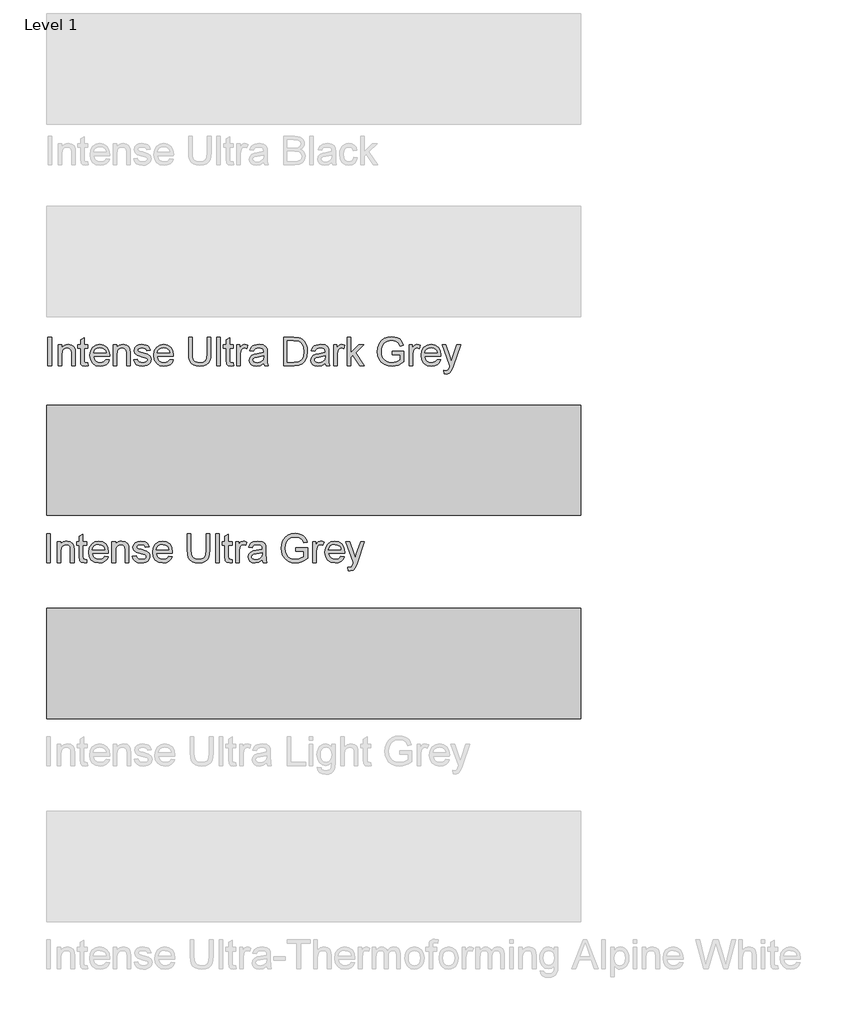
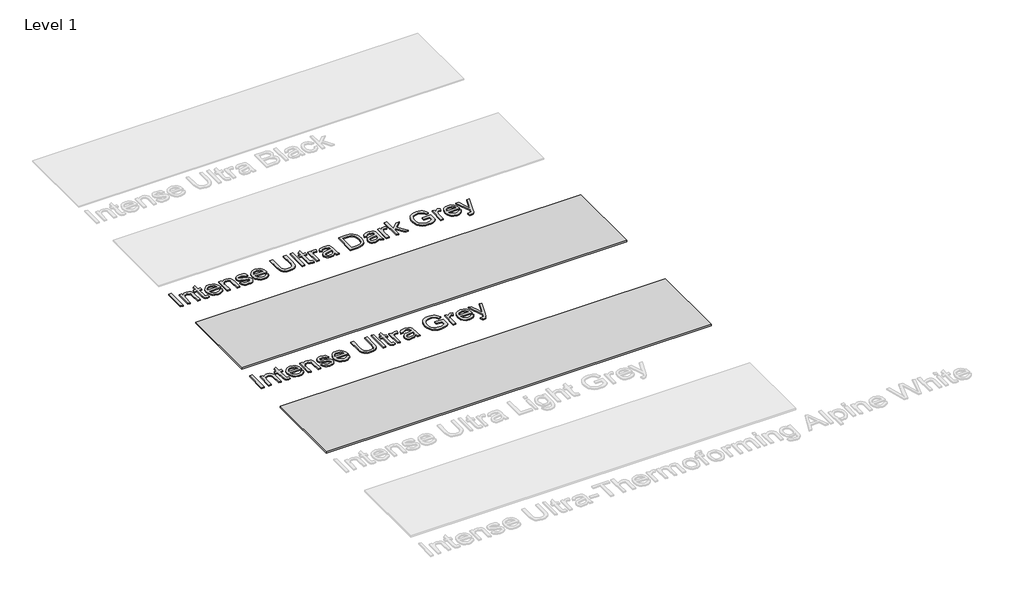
# One storey, part 3 of 4: 4 proxies.
"""IFC4 building model written with IfcOpenShell, lengths in millimetres."""

from ifc_helpers import new_model, si_unit, origin, origin_with_axes, place, context, project, spatial, polyline, outline, extrude, transform, mapped, element, save
from components import generic_models_7f56e2ab

model = new_model("IFC4")

# Units and contexts
model_context = context("Model", 3, world=origin())
ifc_project = project(units=[si_unit("LENGTHUNIT", "METRE", prefix="MILLI")], contexts=[model_context])

# Site, building, storey
site = spatial("IfcSite", under=ifc_project)
building = spatial("IfcBuilding", under=site)
storey = spatial("IfcBuildingStorey", under=building, Name="Level 1", Elevation=0.0)

# Proxies
placement = place(None, origin())
generic_models_shape = generic_models_7f56e2ab(model_context)
element("IfcBuildingElementProxy", 1, Name="Kitchen_Counter-Tops_Indoor-Material_HIMACS_Intense-Ultra : Intense-Ultra-Grey_12mm_760x3680mm", ObjectType="Kitchen_Counter-Tops_Indoor-Material_HIMACS_Intense-Ultra : Intense-Ultra-Grey_12mm_760x3680mm", at=placement, inside=storey, context=model_context, shape_type="MappedRepresentation", body=[
    mapped(generic_models_shape, transform((-20102.2995655, -146319.5662367, 0.0), x_axis=(1.0, 0.0, 0.0), y_axis=(0.0, 1.0, 0.0), z_axis=(0.0, 0.0, 1.0))),
])
element("IfcBuildingElementProxy", 2, Name="Kitchen_Counter-Tops_Indoor-Material_HIMACS_Intense-Ultra : Intense-Ultra-Light-Grey_12mm_760x3680mm", ObjectType="Kitchen_Counter-Tops_Indoor-Material_HIMACS_Intense-Ultra : Intense-Ultra-Light-Grey_12mm_760x3680mm", at=placement, inside=storey, context=model_context, shape_type="MappedRepresentation", body=[
    mapped(generic_models_shape, transform((-20102.2995655, -147719.5662367, 0.0), x_axis=(1.0, 0.0, 0.0), y_axis=(0.0, 1.0, 0.0), z_axis=(0.0, 0.0, 1.0))),
])
element("IfcBuildingElementProxy", 3, Name="600mm Arial", ObjectType="600mm Arial", at=placement, inside=storey, context=model_context, shape_type="SweptSolid", body=[
    extrude(outline(polyline([(-21932.4758787, -145668.5390883), (-21932.4758787, -145471.6160114), (-21907.8604941, -145471.6160114), (-21907.8604941, -145668.5390883), (-21932.4758787, -145668.5390883)])), origin_with_axes(), (0.0, 0.0, 1.0), 10.0),
    extrude(outline(polyline([(-21861.706648, -145668.5390883), (-21861.706648, -145523.9237037), (-21837.0912634, -145523.9237037), (-21837.0912634, -145544.1160114), (-21828.5395807, -145533.9357229), (-21818.269148, -145526.6640883), (-21806.2799653, -145522.3011075), (-21792.5720326, -145520.8467806), (-21769.3268403, -145525.5342806), (-21753.4614557, -145537.8419729), (-21746.081648, -145555.9429344), (-21744.783571, -145579.7410114), (-21744.783571, -145668.5390883), (-21769.3989557, -145668.5390883), (-21769.3989557, -145583.058319), (-21772.2354941, -145561.2794729), (-21782.2595326, -145549.7650498), (-21799.158571, -145545.4621652), (-21813.5756384, -145547.8780306), (-21825.8653018, -145555.1256267), (-21834.284773, -145569.1280306), (-21837.0912634, -145591.808319), (-21837.0912634, -145668.5390883), (-21861.706648, -145668.5390883)])), origin_with_axes(), (0.0, 0.0, 1.0), 10.0),
    extrude(outline(polyline([(-21658.6297249, -145648.0102421), (-21655.5528018, -145669.2602421), (-21673.9662634, -145671.6160114), (-21694.5912634, -145667.5294729), (-21704.8797249, -145656.808319), (-21707.8604941, -145628.8756267), (-21707.8604941, -145548.5390883), (-21726.3220326, -145548.5390883), (-21726.3220326, -145523.9237037), (-21707.8604941, -145523.9237037), (-21707.8604941, -145488.7794729), (-21683.2451095, -145474.308319), (-21683.2451095, -145523.9237037), (-21658.6297249, -145523.9237037), (-21658.6297249, -145548.5390883), (-21683.2451095, -145548.5390883), (-21683.2451095, -145628.1544729), (-21681.9470326, -145640.8467806), (-21677.7403018, -145645.3419729), (-21669.3508787, -145647.0006267), (-21658.6297249, -145648.0102421)])), origin_with_axes(), (0.0, 0.0, 1.0), 10.0),
    extrude(outline(polyline([(-21532.7643403, -145625.4621652), (-21508.6297249, -145628.5390883), (-21517.3256384, -145646.7241844), (-21531.2018403, -145660.3179344), (-21549.9458307, -145668.7914921), (-21573.2451095, -145671.6160114), (-21602.127321, -145666.7422133), (-21624.3508787, -145652.120819), (-21638.5215518, -145628.7013479), (-21643.2451095, -145597.433319), (-21638.4734749, -145565.1136075), (-21624.158571, -145540.9429344), (-21602.2354941, -145525.870819), (-21574.6393403, -145520.8467806), (-21547.9025614, -145525.8587998), (-21526.5383787, -145540.8948575), (-21512.5299653, -145565.0174537), (-21507.8604941, -145597.2890883), (-21508.0047249, -145603.9237037), (-21618.6297249, -145603.9237037), (-21614.3689076, -145622.3491844), (-21604.471071, -145635.8948575), (-21590.1862153, -145644.2241844), (-21572.7643403, -145647.0006267), (-21548.6297249, -145641.856396), (-21539.6633787, -145635.1857229), (-21532.7643403, -145625.4621652)]), holes=[polyline([(-21618.6297249, -145579.308319), (-21532.4758787, -145579.308319), (-21535.8052057, -145566.3035114), (-21542.331648, -145557.0006267), (-21556.6826095, -145548.3467806), (-21574.7354941, -145545.4621652), (-21591.3280422, -145547.7638479), (-21605.0479941, -145554.668896), (-21614.5852537, -145565.4321171), (-21618.6297249, -145579.308319)])]), origin_with_axes(), (0.0, 0.0, 1.0), 10.0),
    extrude(outline(polyline([(-21483.2451095, -145668.5390883), (-21483.2451095, -145523.9237037), (-21458.6297249, -145523.9237037), (-21458.6297249, -145544.1160114), (-21450.0780422, -145533.9357229), (-21439.8076095, -145526.6640883), (-21427.8184268, -145522.3011075), (-21414.1104941, -145520.8467806), (-21390.8653018, -145525.5342806), (-21374.9999172, -145537.8419729), (-21367.6201095, -145555.9429344), (-21366.3220326, -145579.7410114), (-21366.3220326, -145668.5390883), (-21390.9374172, -145668.5390883), (-21390.9374172, -145583.058319), (-21393.7739557, -145561.2794729), (-21403.7979941, -145549.7650498), (-21420.6970326, -145545.4621652), (-21435.1140999, -145547.8780306), (-21447.4037634, -145555.1256267), (-21455.8232345, -145569.1280306), (-21458.6297249, -145591.808319), (-21458.6297249, -145668.5390883), (-21483.2451095, -145668.5390883)])), origin_with_axes(), (0.0, 0.0, 1.0), 10.0),
    extrude(outline(polyline([(-21341.706648, -145625.4621652), (-21317.0912634, -145622.3852421), (-21313.2090518, -145632.9140883), (-21305.6970326, -145640.6544729), (-21294.5071287, -145645.4140883), (-21279.5912634, -145647.0006267), (-21264.8556864, -145645.5462998), (-21254.4951095, -145641.183319), (-21248.3653018, -145634.8612037), (-21246.3220326, -145627.5294729), (-21248.377321, -145621.2554344), (-21254.5431864, -145616.4717806), (-21279.8797249, -145609.4525498), (-21316.9470326, -145597.4092806), (-21333.1249172, -145583.3467806), (-21338.6297249, -145563.4910114), (-21334.206648, -145545.1496652), (-21322.1393403, -145531.1352421), (-21306.4903018, -145523.8515883), (-21285.3124172, -145520.8467806), (-21255.3604941, -145525.6785114), (-21244.158571, -145531.3636075), (-21236.3220326, -145538.7554344), (-21227.8604941, -145560.8467806), (-21252.4758787, -145563.9237037), (-21255.5828499, -145556.1773094), (-21261.7306864, -145550.3419729), (-21283.3893403, -145545.4621652), (-21297.5239557, -145546.6280306), (-21306.9470326, -145550.1256267), (-21312.2475134, -145555.1737037), (-21314.0143403, -145560.9910114), (-21311.081648, -145568.1544729), (-21301.8989557, -145573.5871652), (-21280.6970326, -145578.8275498), (-21244.5672249, -145590.4140883), (-21227.7883787, -145603.5390883), (-21223.2270807, -145613.1905306), (-21221.706648, -145624.933319), (-21223.4915037, -145637.0727421), (-21228.846071, -145648.4910114), (-21237.566023, -145658.292694), (-21249.4470326, -145665.5823575), (-21263.7979941, -145670.1075979), (-21279.9278018, -145671.6160114), (-21304.7475134, -145668.7073575), (-21322.8604941, -145659.981396), (-21334.9518403, -145645.5342806), (-21341.706648, -145625.4621652)])), origin_with_axes(), (0.0, 0.0, 1.0), 10.0),
    extrude(outline(polyline([(-21092.7643403, -145625.4621652), (-21068.6297249, -145628.5390883), (-21077.3256384, -145646.7241844), (-21091.2018403, -145660.3179344), (-21109.9458307, -145668.7914921), (-21133.2451095, -145671.6160114), (-21162.127321, -145666.7422133), (-21184.3508787, -145652.120819), (-21198.5215518, -145628.7013479), (-21203.2451095, -145597.433319), (-21198.4734749, -145565.1136075), (-21184.158571, -145540.9429344), (-21162.2354941, -145525.870819), (-21134.6393403, -145520.8467806), (-21107.9025614, -145525.8587998), (-21086.5383787, -145540.8948575), (-21072.5299653, -145565.0174537), (-21067.8604941, -145597.2890883), (-21068.0047249, -145603.9237037), (-21178.6297249, -145603.9237037), (-21174.3689076, -145622.3491844), (-21164.471071, -145635.8948575), (-21150.1862153, -145644.2241844), (-21132.7643403, -145647.0006267), (-21108.6297249, -145641.856396), (-21099.6633787, -145635.1857229), (-21092.7643403, -145625.4621652)]), holes=[polyline([(-21178.6297249, -145579.308319), (-21092.4758787, -145579.308319), (-21095.8052057, -145566.3035114), (-21102.331648, -145557.0006267), (-21116.6826095, -145548.3467806), (-21134.7354941, -145545.4621652), (-21151.3280422, -145547.7638479), (-21165.0479941, -145554.668896), (-21174.5852537, -145565.4321171), (-21178.6297249, -145579.308319)])]), origin_with_axes(), (0.0, 0.0, 1.0), 10.0),
    extrude(outline(polyline([(-20834.0143403, -145471.6160114), (-20809.3989557, -145471.6160114), (-20809.3989557, -145585.2217806), (-20811.0696287, -145611.8263479), (-20816.081648, -145632.3131267), (-20825.4446287, -145648.1184152), (-20840.1681864, -145660.6785114), (-20860.2883787, -145668.8816364), (-20885.8412634, -145671.6160114), (-20910.8352537, -145669.2362037), (-20930.8172249, -145662.0967806), (-20945.7931864, -145650.4441364), (-20955.769148, -145634.5246652), (-20961.3761191, -145613.1725017), (-20963.2451095, -145585.2217806), (-20963.2451095, -145471.6160114), (-20938.6297249, -145471.6160114), (-20938.6297249, -145584.356396), (-20937.4157826, -145606.4777902), (-20933.7739557, -145621.8804344), (-20927.175398, -145632.5475017), (-20917.0912634, -145640.4621652), (-20903.9422249, -145645.3660114), (-20888.1489557, -145647.0006267), (-20863.112898, -145643.7674537), (-20846.4662634, -145634.0679344), (-20837.127321, -145615.1737037), (-20834.0143403, -145584.356396), (-20834.0143403, -145471.6160114)])), origin_with_axes(), (0.0, 0.0, 1.0), 10.0),
    extrude(outline(polyline([(-20769.3989557, -145668.5390883), (-20769.3989557, -145471.6160114), (-20744.783571, -145471.6160114), (-20744.783571, -145668.5390883), (-20769.3989557, -145668.5390883)])), origin_with_axes(), (0.0, 0.0, 1.0), 10.0),
    extrude(outline(polyline([(-20655.5528018, -145648.0102421), (-20652.4758787, -145669.2602421), (-20670.8893403, -145671.6160114), (-20691.5143403, -145667.5294729), (-20701.8028018, -145656.808319), (-20704.783571, -145628.8756267), (-20704.783571, -145548.5390883), (-20723.2451095, -145548.5390883), (-20723.2451095, -145523.9237037), (-20704.783571, -145523.9237037), (-20704.783571, -145488.7794729), (-20680.1681864, -145474.308319), (-20680.1681864, -145523.9237037), (-20655.5528018, -145523.9237037), (-20655.5528018, -145548.5390883), (-20680.1681864, -145548.5390883), (-20680.1681864, -145628.1544729), (-20678.8701095, -145640.8467806), (-20674.6633787, -145645.3419729), (-20666.2739557, -145647.0006267), (-20655.5528018, -145648.0102421)])), origin_with_axes(), (0.0, 0.0, 1.0), 10.0),
    extrude(outline(polyline([(-20630.9374172, -145668.5390883), (-20630.9374172, -145523.9237037), (-20609.3989557, -145523.9237037), (-20609.3989557, -145545.3179344), (-20594.1104941, -145525.606396), (-20578.7258787, -145520.8467806), (-20566.4662634, -145522.745819), (-20554.0143403, -145528.4429344), (-20562.2354941, -145550.5102421), (-20579.5431864, -145545.4621652), (-20593.4614557, -145550.3179344), (-20602.331648, -145563.7794729), (-20606.3220326, -145592.5294729), (-20606.3220326, -145668.5390883), (-20630.9374172, -145668.5390883)])), origin_with_axes(), (0.0, 0.0, 1.0), 10.0),
    extrude(outline(polyline([(-20446.3220326, -145650.0775498), (-20470.1922249, -145666.7602421), (-20496.5624172, -145671.6160114), (-20517.1333307, -145668.6953383), (-20532.3076095, -145659.933319), (-20541.6645807, -145646.6280306), (-20544.783571, -145630.0775498), (-20540.0720326, -145610.606396), (-20527.6922249, -145596.4717806), (-20510.456648, -145588.3948575), (-20489.158571, -145584.6929344), (-20446.4662634, -145576.231396), (-20446.3220326, -145570.7506267), (-20448.0167441, -145559.7650498), (-20453.1008787, -145552.5775498), (-20464.471071, -145547.2410114), (-20480.3124172, -145545.4621652), (-20505.2162634, -145550.1977421), (-20512.1994364, -145556.7662517), (-20517.0912634, -145567.0006267), (-20541.706648, -145563.9237037), (-20531.0576095, -145539.8852421), (-20521.9830903, -145531.7962998), (-20509.6153018, -145525.7987037), (-20477.1393403, -145520.8467806), (-20447.3076095, -145525.2217806), (-20430.456648, -145536.2073575), (-20422.908571, -145552.9140883), (-20421.706648, -145574.4525498), (-20421.706648, -145605.0775498), (-20420.456648, -145647.8419729), (-20415.5528018, -145668.5390883), (-20440.1681864, -145668.5390883), (-20446.3220326, -145650.0775498)]), holes=[polyline([(-20446.3220326, -145600.8467806), (-20486.033571, -145608.3948575), (-20507.2114557, -145612.3852421), (-20516.8028018, -145618.8756267), (-20520.1681864, -145628.3467806), (-20518.3352537, -145635.6664921), (-20512.8364557, -145641.6640883), (-20503.7919845, -145645.6664921), (-20491.3220326, -145647.0006267), (-20478.1008787, -145645.528271), (-20466.4181864, -145641.1112037), (-20450.3604941, -145626.856396), (-20446.4662634, -145607.8179344), (-20446.3220326, -145600.8467806)])]), origin_with_axes(), (0.0, 0.0, 1.0), 10.0),
    extrude(outline(polyline([(-20307.8604941, -145668.5390883), (-20307.8604941, -145471.6160114), (-20239.9278018, -145471.6160114), (-20204.783571, -145474.4525498), (-20189.0864557, -145479.9212998), (-20175.8412634, -145488.5390883), (-20162.2234749, -145503.5390883), (-20152.5239557, -145522.1929344), (-20146.7186672, -145544.1400498), (-20144.783571, -145569.0198575), (-20150.0239557, -145608.7554344), (-20163.4854941, -145637.433319), (-20181.4662634, -145655.293896), (-20204.9999172, -145665.1737037), (-20236.658571, -145668.5390883), (-20307.8604941, -145668.5390883)]), holes=[polyline([(-20283.2451095, -145643.9237037), (-20239.6874172, -145643.9237037), (-20208.0047249, -145640.3660114), (-20189.7354941, -145630.3179344), (-20181.1838114, -145619.6628864), (-20174.7595326, -145605.870819), (-20169.3989557, -145568.6352421), (-20172.0251576, -145541.808319), (-20179.9037634, -145522.0006267), (-20191.5443884, -145508.3948575), (-20205.456648, -145500.1737037), (-20240.3604941, -145496.231396), (-20283.2451095, -145496.231396), (-20283.2451095, -145643.9237037)])]), origin_with_axes(), (0.0, 0.0, 1.0), 10.0),
    extrude(outline(polyline([(-20021.706648, -145650.0775498), (-20045.5768403, -145666.7602421), (-20071.9470326, -145671.6160114), (-20092.517946, -145668.6953383), (-20107.6922249, -145659.933319), (-20117.049196, -145646.6280306), (-20120.1681864, -145630.0775498), (-20115.456648, -145610.606396), (-20103.0768403, -145596.4717806), (-20085.8412634, -145588.3948575), (-20064.5431864, -145584.6929344), (-20021.8508787, -145576.231396), (-20021.706648, -145570.7506267), (-20023.4013595, -145559.7650498), (-20028.4854941, -145552.5775498), (-20039.8556864, -145547.2410114), (-20055.6970326, -145545.4621652), (-20080.6008787, -145550.1977421), (-20087.5840518, -145556.7662517), (-20092.4758787, -145567.0006267), (-20117.0912634, -145563.9237037), (-20106.4422249, -145539.8852421), (-20097.3677057, -145531.7962998), (-20084.9999172, -145525.7987037), (-20052.5239557, -145520.8467806), (-20022.6922249, -145525.2217806), (-20005.8412634, -145536.2073575), (-19998.2931864, -145552.9140883), (-19997.0912634, -145574.4525498), (-19997.0912634, -145605.0775498), (-19995.8412634, -145647.8419729), (-19990.9374172, -145668.5390883), (-20015.5528018, -145668.5390883), (-20021.706648, -145650.0775498)]), holes=[polyline([(-20021.706648, -145600.8467806), (-20061.4181864, -145608.3948575), (-20082.596071, -145612.3852421), (-20092.1874172, -145618.8756267), (-20095.5528018, -145628.3467806), (-20093.7198691, -145635.6664921), (-20088.221071, -145641.6640883), (-20079.1765999, -145645.6664921), (-20066.706648, -145647.0006267), (-20053.4854941, -145645.528271), (-20041.8028018, -145641.1112037), (-20025.7451095, -145626.856396), (-20021.8508787, -145607.8179344), (-20021.706648, -145600.8467806)])]), origin_with_axes(), (0.0, 0.0, 1.0), 10.0),
    extrude(outline(polyline([(-19963.2451095, -145668.5390883), (-19963.2451095, -145523.9237037), (-19941.706648, -145523.9237037), (-19941.706648, -145545.3179344), (-19926.4181864, -145525.606396), (-19911.033571, -145520.8467806), (-19898.7739557, -145522.745819), (-19886.3220326, -145528.4429344), (-19894.5431864, -145550.5102421), (-19911.8508787, -145545.4621652), (-19925.769148, -145550.3179344), (-19934.6393403, -145563.7794729), (-19938.6297249, -145592.5294729), (-19938.6297249, -145668.5390883), (-19963.2451095, -145668.5390883)])), origin_with_axes(), (0.0, 0.0, 1.0), 10.0),
    extrude(outline(polyline([(-19870.9374172, -145668.5390883), (-19870.9374172, -145471.6160114), (-19846.3220326, -145471.6160114), (-19846.3220326, -145577.433319), (-19791.1297249, -145523.9237037), (-19757.0912634, -145523.9237037), (-19812.956648, -145578.106396), (-19754.0143403, -145668.5390883), (-19782.7643403, -145668.5390883), (-19830.6008787, -145595.2217806), (-19846.3220326, -145610.4621652), (-19846.3220326, -145668.5390883), (-19870.9374172, -145668.5390883)])), origin_with_axes(), (0.0, 0.0, 1.0), 10.0),
    extrude(outline(polyline([(-19560.1681864, -145591.6160114), (-19560.1681864, -145567.0006267), (-19480.1681864, -145567.0006267), (-19480.1681864, -145640.606396), (-19499.6092922, -145654.1280306), (-19519.6633787, -145663.8275498), (-19540.2823691, -145669.668896), (-19561.4181864, -145671.6160114), (-19589.0323691, -145668.5210594), (-19613.9903018, -145659.2362037), (-19634.7234749, -145644.0859633), (-19649.6633787, -145623.3948575), (-19658.6958307, -145598.575146), (-19661.706648, -145571.0390883), (-19658.7078499, -145543.3047133), (-19649.7114557, -145517.5054344), (-19635.0900614, -145495.8648094), (-19615.2162634, -145480.606396), (-19591.0095326, -145471.5559152), (-19563.3893403, -145468.5390883), (-19543.112898, -145470.2878864), (-19524.8797249, -145475.5342806), (-19509.5251576, -145483.8996652), (-19497.8845326, -145495.0054344), (-19489.2727537, -145509.386444), (-19483.0047249, -145527.5775498), (-19505.6970326, -145533.9717806), (-19516.9229941, -145511.2073575), (-19536.1056864, -145498.0823575), (-19563.7739557, -145493.1544729), (-19595.2883787, -145498.4669729), (-19616.7306864, -145512.4092806), (-19629.3989557, -145531.3756267), (-19635.1681864, -145549.9573575), (-19637.0912634, -145570.0294729), (-19634.7775614, -145593.5691364), (-19627.8364557, -145612.9381267), (-19616.4782826, -145627.9982229), (-19600.9133787, -145638.6112037), (-19582.6982345, -145644.903271), (-19563.3893403, -145647.0006267), (-19546.3400614, -145645.4200979), (-19529.7114557, -145640.6785114), (-19504.783571, -145627.1929344), (-19504.783571, -145591.6160114), (-19560.1681864, -145591.6160114)])), origin_with_axes(), (0.0, 0.0, 1.0), 10.0),
    extrude(outline(polyline([(-19443.2451095, -145668.5390883), (-19443.2451095, -145523.9237037), (-19421.706648, -145523.9237037), (-19421.706648, -145545.3179344), (-19406.4181864, -145525.606396), (-19391.033571, -145520.8467806), (-19378.7739557, -145522.745819), (-19366.3220326, -145528.4429344), (-19374.5431864, -145550.5102421), (-19391.8508787, -145545.4621652), (-19405.769148, -145550.3179344), (-19414.6393403, -145563.7794729), (-19418.6297249, -145592.5294729), (-19418.6297249, -145668.5390883), (-19443.2451095, -145668.5390883)])), origin_with_axes(), (0.0, 0.0, 1.0), 10.0),
    extrude(outline(polyline([(-19249.6874172, -145625.4621652), (-19225.5528018, -145628.5390883), (-19234.2487153, -145646.7241844), (-19248.1249172, -145660.3179344), (-19266.8689076, -145668.7914921), (-19290.1681864, -145671.6160114), (-19319.050398, -145666.7422133), (-19341.2739557, -145652.120819), (-19355.4446287, -145628.7013479), (-19360.1681864, -145597.433319), (-19355.3965518, -145565.1136075), (-19341.081648, -145540.9429344), (-19319.158571, -145525.870819), (-19291.5624172, -145520.8467806), (-19264.8256384, -145525.8587998), (-19243.4614557, -145540.8948575), (-19229.4530422, -145565.0174537), (-19224.783571, -145597.2890883), (-19224.9278018, -145603.9237037), (-19335.5528018, -145603.9237037), (-19331.2919845, -145622.3491844), (-19321.394148, -145635.8948575), (-19307.1092922, -145644.2241844), (-19289.6874172, -145647.0006267), (-19265.5528018, -145641.856396), (-19256.5864557, -145635.1857229), (-19249.6874172, -145625.4621652)]), holes=[polyline([(-19335.5528018, -145579.308319), (-19249.3989557, -145579.308319), (-19252.7282826, -145566.3035114), (-19259.2547249, -145557.0006267), (-19273.6056864, -145548.3467806), (-19291.658571, -145545.4621652), (-19308.2511191, -145547.7638479), (-19321.971071, -145554.668896), (-19331.5083307, -145565.4321171), (-19335.5528018, -145579.308319)])]), origin_with_axes(), (0.0, 0.0, 1.0), 10.0),
    extrude(outline(polyline([(-19200.1681864, -145723.9237037), (-19203.2451095, -145700.2217806), (-19190.7451095, -145702.3852421), (-19179.0624172, -145699.668896), (-19171.8989557, -145692.0967806), (-19165.1681864, -145673.9717806), (-19163.2451095, -145668.0102421), (-19215.5528018, -145523.9237037), (-19189.5912634, -145523.9237037), (-19161.8508787, -145604.2121652), (-19152.1874172, -145636.3275498), (-19142.5239557, -145607.9621652), (-19114.0143403, -145523.9237037), (-19088.2451095, -145523.9237037), (-19138.581648, -145672.0006267), (-19151.658571, -145704.1160114), (-19165.9374172, -145721.4717806), (-19185.1201095, -145727.0006267), (-19200.1681864, -145723.9237037)])), origin_with_axes(), (0.0, 0.0, 1.0), 10.0),
])
element("IfcBuildingElementProxy", 4, Name="600mm Arial", ObjectType="600mm Arial", at=placement, inside=storey, context=model_context, shape_type="SweptSolid", body=[
    extrude(outline(polyline([(-21940.7588648, -147024.4754206), (-21940.7588648, -146827.5523436), (-21916.1434801, -146827.5523436), (-21916.1434801, -147024.4754206), (-21940.7588648, -147024.4754206)])), origin_with_axes(), (0.0, 0.0, 1.0), 10.0),
    extrude(outline(polyline([(-21869.989634, -147024.4754206), (-21869.989634, -146879.860036), (-21845.3742494, -146879.860036), (-21845.3742494, -146900.0523436), (-21836.8225667, -146889.8720552), (-21826.552134, -146882.6004206), (-21814.5629513, -146878.2374398), (-21800.8550186, -146876.7831129), (-21777.6098263, -146881.4706129), (-21761.7444417, -146893.7783052), (-21754.364634, -146911.8792667), (-21753.0665571, -146935.6773436), (-21753.0665571, -147024.4754206), (-21777.6819417, -147024.4754206), (-21777.6819417, -146938.9946513), (-21780.5184801, -146917.2158052), (-21790.5425186, -146905.7013821), (-21807.4415571, -146901.3984975), (-21821.8586244, -146903.8143629), (-21834.1482878, -146911.061959), (-21842.567759, -146925.0643629), (-21845.3742494, -146947.7446513), (-21845.3742494, -147024.4754206), (-21869.989634, -147024.4754206)])), origin_with_axes(), (0.0, 0.0, 1.0), 10.0),
    extrude(outline(polyline([(-21666.9127109, -147003.9465744), (-21663.8357878, -147025.1965744), (-21682.2492494, -147027.5523436), (-21702.8742494, -147023.4658052), (-21713.1627109, -147012.7446513), (-21716.1434801, -146984.811959), (-21716.1434801, -146904.4754206), (-21734.6050186, -146904.4754206), (-21734.6050186, -146879.860036), (-21716.1434801, -146879.860036), (-21716.1434801, -146844.7158052), (-21691.5280955, -146830.2446513), (-21691.5280955, -146879.860036), (-21666.9127109, -146879.860036), (-21666.9127109, -146904.4754206), (-21691.5280955, -146904.4754206), (-21691.5280955, -146984.0908052), (-21690.2300186, -146996.7831129), (-21686.0232878, -147001.2783052), (-21677.6338648, -147002.936959), (-21666.9127109, -147003.9465744)])), origin_with_axes(), (0.0, 0.0, 1.0), 10.0),
    extrude(outline(polyline([(-21541.0473263, -146981.3984975), (-21516.9127109, -146984.4754206), (-21525.6086244, -147002.6605167), (-21539.4848263, -147016.2542667), (-21558.2288167, -147024.7278244), (-21581.5280955, -147027.5523436), (-21610.4103071, -147022.6785456), (-21632.6338648, -147008.0571513), (-21646.8045378, -146984.6376802), (-21651.5280955, -146953.3696513), (-21646.7564609, -146921.0499398), (-21632.4415571, -146896.8792667), (-21610.5184801, -146881.8071513), (-21582.9223263, -146876.7831129), (-21556.1855474, -146881.7951321), (-21534.8213648, -146896.8311898), (-21520.8129513, -146920.953786), (-21516.1434801, -146953.2254206), (-21516.2877109, -146959.860036), (-21626.9127109, -146959.860036), (-21622.6518936, -146978.2855167), (-21612.7540571, -146991.8311898), (-21598.4692013, -147000.1605167), (-21581.0473263, -147002.936959), (-21556.9127109, -146997.7927283), (-21547.9463648, -146991.1220552), (-21541.0473263, -146981.3984975)]), holes=[polyline([(-21626.9127109, -146935.2446513), (-21540.7588648, -146935.2446513), (-21544.0881917, -146922.2398436), (-21550.614634, -146912.936959), (-21564.9655955, -146904.2831129), (-21583.0184801, -146901.3984975), (-21599.6110282, -146903.7001802), (-21613.3309801, -146910.6052283), (-21622.8682398, -146921.3684494), (-21626.9127109, -146935.2446513)])]), origin_with_axes(), (0.0, 0.0, 1.0), 10.0),
    extrude(outline(polyline([(-21491.5280955, -147024.4754206), (-21491.5280955, -146879.860036), (-21466.9127109, -146879.860036), (-21466.9127109, -146900.0523436), (-21458.3610282, -146889.8720552), (-21448.0905955, -146882.6004206), (-21436.1014128, -146878.2374398), (-21422.3934801, -146876.7831129), (-21399.1482878, -146881.4706129), (-21383.2829032, -146893.7783052), (-21375.9030955, -146911.8792667), (-21374.6050186, -146935.6773436), (-21374.6050186, -147024.4754206), (-21399.2204032, -147024.4754206), (-21399.2204032, -146938.9946513), (-21402.0569417, -146917.2158052), (-21412.0809801, -146905.7013821), (-21428.9800186, -146901.3984975), (-21443.3970859, -146903.8143629), (-21455.6867494, -146911.061959), (-21464.1062205, -146925.0643629), (-21466.9127109, -146947.7446513), (-21466.9127109, -147024.4754206), (-21491.5280955, -147024.4754206)])), origin_with_axes(), (0.0, 0.0, 1.0), 10.0),
    extrude(outline(polyline([(-21349.989634, -146981.3984975), (-21325.3742494, -146978.3215744), (-21321.4920378, -146988.8504206), (-21313.9800186, -146996.5908052), (-21302.7901148, -147001.3504206), (-21287.8742494, -147002.936959), (-21273.1386724, -147001.4826321), (-21262.7780955, -146997.1196513), (-21256.6482878, -146990.797536), (-21254.6050186, -146983.4658052), (-21256.6603071, -146977.1917667), (-21262.8261724, -146972.4081129), (-21288.1627109, -146965.3888821), (-21325.2300186, -146953.3456129), (-21341.4079032, -146939.2831129), (-21346.9127109, -146919.4273436), (-21342.489634, -146901.0859975), (-21330.4223263, -146887.0715744), (-21314.7732878, -146879.7879206), (-21293.5954032, -146876.7831129), (-21263.6434801, -146881.6148436), (-21252.4415571, -146887.2999398), (-21244.6050186, -146894.6917667), (-21236.1434801, -146916.7831129), (-21260.7588648, -146919.860036), (-21263.8658359, -146912.1136417), (-21270.0136724, -146906.2783052), (-21291.6723263, -146901.3984975), (-21305.8069417, -146902.5643629), (-21315.2300186, -146906.061959), (-21320.5304994, -146911.110036), (-21322.2973263, -146916.9273436), (-21319.364634, -146924.0908052), (-21310.1819417, -146929.5234975), (-21288.9800186, -146934.7638821), (-21252.8502109, -146946.3504206), (-21236.0713648, -146959.4754206), (-21231.5100667, -146969.1268629), (-21229.989634, -146980.8696513), (-21231.7744898, -146993.0090744), (-21237.1290571, -147004.4273436), (-21245.849009, -147014.2290263), (-21257.7300186, -147021.5186898), (-21272.0809801, -147026.0439302), (-21288.2107878, -147027.5523436), (-21313.0304994, -147024.6436898), (-21331.1434801, -147015.9177283), (-21343.2348263, -147001.4706129), (-21349.989634, -146981.3984975)])), origin_with_axes(), (0.0, 0.0, 1.0), 10.0),
    extrude(outline(polyline([(-21101.0473263, -146981.3984975), (-21076.9127109, -146984.4754206), (-21085.6086244, -147002.6605167), (-21099.4848263, -147016.2542667), (-21118.2288167, -147024.7278244), (-21141.5280955, -147027.5523436), (-21170.4103071, -147022.6785456), (-21192.6338648, -147008.0571513), (-21206.8045378, -146984.6376802), (-21211.5280955, -146953.3696513), (-21206.7564609, -146921.0499398), (-21192.4415571, -146896.8792667), (-21170.5184801, -146881.8071513), (-21142.9223263, -146876.7831129), (-21116.1855474, -146881.7951321), (-21094.8213648, -146896.8311898), (-21080.8129513, -146920.953786), (-21076.1434801, -146953.2254206), (-21076.2877109, -146959.860036), (-21186.9127109, -146959.860036), (-21182.6518936, -146978.2855167), (-21172.7540571, -146991.8311898), (-21158.4692013, -147000.1605167), (-21141.0473263, -147002.936959), (-21116.9127109, -146997.7927283), (-21107.9463648, -146991.1220552), (-21101.0473263, -146981.3984975)]), holes=[polyline([(-21186.9127109, -146935.2446513), (-21100.7588648, -146935.2446513), (-21104.0881917, -146922.2398436), (-21110.614634, -146912.936959), (-21124.9655955, -146904.2831129), (-21143.0184801, -146901.3984975), (-21159.6110282, -146903.7001802), (-21173.3309801, -146910.6052283), (-21182.8682398, -146921.3684494), (-21186.9127109, -146935.2446513)])]), origin_with_axes(), (0.0, 0.0, 1.0), 10.0),
    extrude(outline(polyline([(-20842.2973263, -146827.5523436), (-20817.6819417, -146827.5523436), (-20817.6819417, -146941.1581129), (-20819.3526148, -146967.7626802), (-20824.364634, -146988.249459), (-20833.7276148, -147004.0547475), (-20848.4511724, -147016.6148436), (-20868.5713648, -147024.8179686), (-20894.1242494, -147027.5523436), (-20919.1182398, -147025.172536), (-20939.1002109, -147018.0331129), (-20954.0761724, -147006.3804686), (-20964.052134, -146990.4609975), (-20969.6591051, -146969.108834), (-20971.5280955, -146941.1581129), (-20971.5280955, -146827.5523436), (-20946.9127109, -146827.5523436), (-20946.9127109, -146940.2927283), (-20945.6987686, -146962.4141225), (-20942.0569417, -146977.8167667), (-20935.458384, -146988.483834), (-20925.3742494, -146996.3984975), (-20912.2252109, -147001.3023436), (-20896.4319417, -147002.936959), (-20871.395884, -146999.703786), (-20854.7492494, -146990.0042667), (-20845.4103071, -146971.110036), (-20842.2973263, -146940.2927283), (-20842.2973263, -146827.5523436)])), origin_with_axes(), (0.0, 0.0, 1.0), 10.0),
    extrude(outline(polyline([(-20777.6819417, -147024.4754206), (-20777.6819417, -146827.5523436), (-20753.0665571, -146827.5523436), (-20753.0665571, -147024.4754206), (-20777.6819417, -147024.4754206)])), origin_with_axes(), (0.0, 0.0, 1.0), 10.0),
    extrude(outline(polyline([(-20663.8357878, -147003.9465744), (-20660.7588648, -147025.1965744), (-20679.1723263, -147027.5523436), (-20699.7973263, -147023.4658052), (-20710.0857878, -147012.7446513), (-20713.0665571, -146984.811959), (-20713.0665571, -146904.4754206), (-20731.5280955, -146904.4754206), (-20731.5280955, -146879.860036), (-20713.0665571, -146879.860036), (-20713.0665571, -146844.7158052), (-20688.4511724, -146830.2446513), (-20688.4511724, -146879.860036), (-20663.8357878, -146879.860036), (-20663.8357878, -146904.4754206), (-20688.4511724, -146904.4754206), (-20688.4511724, -146984.0908052), (-20687.1530955, -146996.7831129), (-20682.9463648, -147001.2783052), (-20674.5569417, -147002.936959), (-20663.8357878, -147003.9465744)])), origin_with_axes(), (0.0, 0.0, 1.0), 10.0),
    extrude(outline(polyline([(-20639.2204032, -147024.4754206), (-20639.2204032, -146879.860036), (-20617.6819417, -146879.860036), (-20617.6819417, -146901.2542667), (-20602.3934801, -146881.5427283), (-20587.0088648, -146876.7831129), (-20574.7492494, -146878.6821513), (-20562.2973263, -146884.3792667), (-20570.5184801, -146906.4465744), (-20587.8261724, -146901.3984975), (-20601.7444417, -146906.2542667), (-20610.614634, -146919.7158052), (-20614.6050186, -146948.4658052), (-20614.6050186, -147024.4754206), (-20639.2204032, -147024.4754206)])), origin_with_axes(), (0.0, 0.0, 1.0), 10.0),
    extrude(outline(polyline([(-20454.6050186, -147006.0138821), (-20478.4752109, -147022.6965744), (-20504.8454032, -147027.5523436), (-20525.4163167, -147024.6316706), (-20540.5905955, -147015.8696513), (-20549.9475667, -147002.5643629), (-20553.0665571, -146986.0138821), (-20548.3550186, -146966.5427283), (-20535.9752109, -146952.4081129), (-20518.739634, -146944.3311898), (-20497.4415571, -146940.6292667), (-20454.7492494, -146932.1677283), (-20454.6050186, -146926.686959), (-20456.2997301, -146915.7013821), (-20461.3838648, -146908.5138821), (-20472.7540571, -146903.1773436), (-20488.5954032, -146901.3984975), (-20513.4992494, -146906.1340744), (-20520.4824224, -146912.702584), (-20525.3742494, -146922.936959), (-20549.989634, -146919.860036), (-20539.3405955, -146895.8215744), (-20530.2660763, -146887.7326321), (-20517.8982878, -146881.735036), (-20485.4223263, -146876.7831129), (-20455.5905955, -146881.1581129), (-20438.739634, -146892.1436898), (-20431.1915571, -146908.8504206), (-20429.989634, -146930.3888821), (-20429.989634, -146961.0138821), (-20428.739634, -147003.7783052), (-20423.8357878, -147024.4754206), (-20448.4511724, -147024.4754206), (-20454.6050186, -147006.0138821)]), holes=[polyline([(-20454.6050186, -146956.7831129), (-20494.3165571, -146964.3311898), (-20515.4944417, -146968.3215744), (-20525.0857878, -146974.811959), (-20528.4511724, -146984.2831129), (-20526.6182398, -146991.6028244), (-20521.1194417, -146997.6004206), (-20512.0749705, -147001.6028244), (-20499.6050186, -147002.936959), (-20486.3838648, -147001.4646033), (-20474.7011724, -146997.047536), (-20458.6434801, -146982.7927283), (-20454.7492494, -146963.7542667), (-20454.6050186, -146956.7831129)])]), origin_with_axes(), (0.0, 0.0, 1.0), 10.0),
    extrude(outline(polyline([(-20223.8357878, -146947.5523436), (-20223.8357878, -146922.936959), (-20143.8357878, -146922.936959), (-20143.8357878, -146996.5427283), (-20163.2768936, -147010.0643629), (-20183.3309801, -147019.7638821), (-20203.9499705, -147025.6052283), (-20225.0857878, -147027.5523436), (-20252.6999705, -147024.4573917), (-20277.6579032, -147015.172536), (-20298.3910763, -147000.0222956), (-20313.3309801, -146979.3311898), (-20322.3634321, -146954.5114783), (-20325.3742494, -146926.9754206), (-20322.3754513, -146899.2410456), (-20313.3790571, -146873.4417667), (-20298.7576628, -146851.8011417), (-20278.8838648, -146836.5427283), (-20254.677134, -146827.4922475), (-20227.0569417, -146824.4754206), (-20206.7804994, -146826.2242186), (-20188.5473263, -146831.4706129), (-20173.192759, -146839.8359975), (-20161.552134, -146850.9417667), (-20152.9403551, -146865.3227763), (-20146.6723263, -146883.5138821), (-20169.364634, -146889.9081129), (-20180.5905955, -146867.1436898), (-20199.7732878, -146854.0186898), (-20227.4415571, -146849.0908052), (-20258.9559801, -146854.4033052), (-20280.3982878, -146868.3456129), (-20293.0665571, -146887.311959), (-20298.8357878, -146905.8936898), (-20300.7588648, -146925.9658052), (-20298.4451628, -146949.5054686), (-20291.5040571, -146968.874459), (-20280.145884, -146983.9345552), (-20264.5809801, -146994.547536), (-20246.3658359, -147000.8396033), (-20227.0569417, -147002.936959), (-20210.0076628, -147001.3564302), (-20193.3790571, -146996.6148436), (-20168.4511724, -146983.1292667), (-20168.4511724, -146947.5523436), (-20223.8357878, -146947.5523436)])), origin_with_axes(), (0.0, 0.0, 1.0), 10.0),
    extrude(outline(polyline([(-20106.9127109, -147024.4754206), (-20106.9127109, -146879.860036), (-20085.3742494, -146879.860036), (-20085.3742494, -146901.2542667), (-20070.0857878, -146881.5427283), (-20054.7011724, -146876.7831129), (-20042.4415571, -146878.6821513), (-20029.989634, -146884.3792667), (-20038.2107878, -146906.4465744), (-20055.5184801, -146901.3984975), (-20069.4367494, -146906.2542667), (-20078.3069417, -146919.7158052), (-20082.2973263, -146948.4658052), (-20082.2973263, -147024.4754206), (-20106.9127109, -147024.4754206)])), origin_with_axes(), (0.0, 0.0, 1.0), 10.0),
    extrude(outline(polyline([(-19913.3550186, -146981.3984975), (-19889.2204032, -146984.4754206), (-19897.9163167, -147002.6605167), (-19911.7925186, -147016.2542667), (-19930.536509, -147024.7278244), (-19953.8357878, -147027.5523436), (-19982.7179994, -147022.6785456), (-20004.9415571, -147008.0571513), (-20019.1122301, -146984.6376802), (-20023.8357878, -146953.3696513), (-20019.0641532, -146921.0499398), (-20004.7492494, -146896.8792667), (-19982.8261724, -146881.8071513), (-19955.2300186, -146876.7831129), (-19928.4932398, -146881.7951321), (-19907.1290571, -146896.8311898), (-19893.1206436, -146920.953786), (-19888.4511724, -146953.2254206), (-19888.5954032, -146959.860036), (-19999.2204032, -146959.860036), (-19994.9595859, -146978.2855167), (-19985.0617494, -146991.8311898), (-19970.7768936, -147000.1605167), (-19953.3550186, -147002.936959), (-19929.2204032, -146997.7927283), (-19920.2540571, -146991.1220552), (-19913.3550186, -146981.3984975)]), holes=[polyline([(-19999.2204032, -146935.2446513), (-19913.0665571, -146935.2446513), (-19916.395884, -146922.2398436), (-19922.9223263, -146912.936959), (-19937.2732878, -146904.2831129), (-19955.3261724, -146901.3984975), (-19971.9187205, -146903.7001802), (-19985.6386724, -146910.6052283), (-19995.1759321, -146921.3684494), (-19999.2204032, -146935.2446513)])]), origin_with_axes(), (0.0, 0.0, 1.0), 10.0),
    extrude(outline(polyline([(-19863.8357878, -147079.860036), (-19866.9127109, -147056.1581129), (-19854.4127109, -147058.3215744), (-19842.7300186, -147055.6052283), (-19835.5665571, -147048.0331129), (-19828.8357878, -147029.9081129), (-19826.9127109, -147023.9465744), (-19879.2204032, -146879.860036), (-19853.2588648, -146879.860036), (-19825.5184801, -146960.1484975), (-19815.8550186, -146992.2638821), (-19806.1915571, -146963.8984975), (-19777.6819417, -146879.860036), (-19751.9127109, -146879.860036), (-19802.2492494, -147027.936959), (-19815.3261724, -147060.0523436), (-19829.6050186, -147077.4081129), (-19848.7877109, -147082.936959), (-19863.8357878, -147079.860036)])), origin_with_axes(), (0.0, 0.0, 1.0), 10.0),
])

save(model, "model.ifc")
